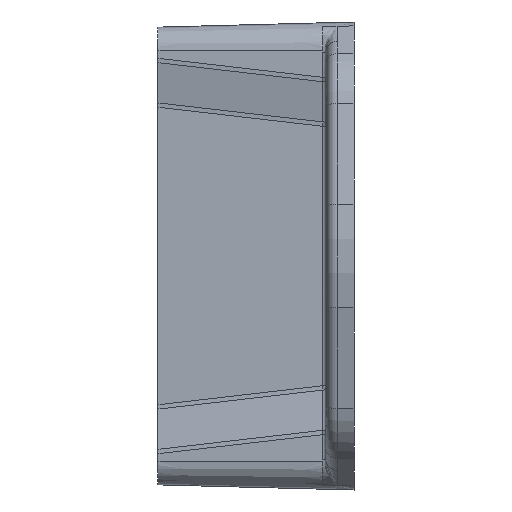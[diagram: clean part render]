
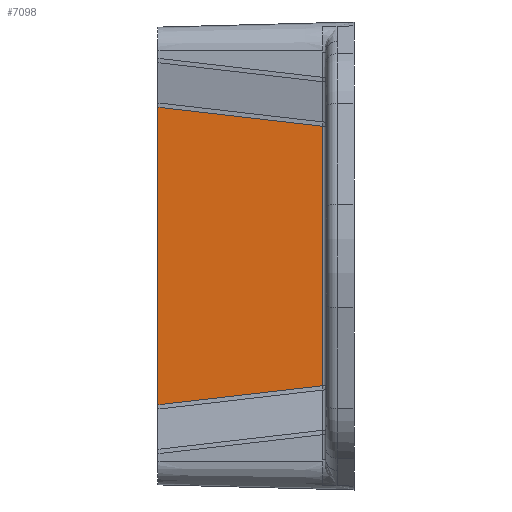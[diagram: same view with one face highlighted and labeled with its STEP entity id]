
A CAD part, left-side view. The second image highlights one B-rep face of the part: STEP entity #7098.
In plain terms, the highlighted planar face has unit normal (-1, 0.026, 0).
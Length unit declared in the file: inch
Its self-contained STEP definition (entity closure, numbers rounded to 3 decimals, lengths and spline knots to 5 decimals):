
#148 = LINE ( 'NONE', #3193, #3602 ) ;
#465 = CARTESIAN_POINT ( 'NONE',  ( -1.04724, -0.75388, -0.5808 ) ) ;
#562 = VERTEX_POINT ( 'NONE', #8196 ) ;
#790 = LINE ( 'NONE', #6444, #5668 ) ;
#1608 = DIRECTION ( 'NONE',  ( -0.026, -1., 0. ) ) ;
#1882 = VERTEX_POINT ( 'NONE', #3057 ) ;
#1965 = DIRECTION ( 'NONE',  ( 0.026, 0.993, 0.114 ) ) ;
#2001 = CARTESIAN_POINT ( 'NONE',  ( -1.0275, 0., -0.66767 ) ) ;
#2366 = VERTEX_POINT ( 'NONE', #2001 ) ;
#2719 = EDGE_CURVE ( 'NONE', #1882, #562, #790, .T. ) ;
#2728 = VECTOR ( 'NONE', #1965, 39.37008 ) ;
#3057 = CARTESIAN_POINT ( 'NONE',  ( -1.04687, -0.73978, -0.58243 ) ) ;
#3105 = ORIENTED_EDGE ( 'NONE', *, *, #7721, .F. ) ;
#3193 = CARTESIAN_POINT ( 'NONE',  ( -1.0275, 0., -0.6775 ) ) ;
#3239 = DIRECTION ( 'NONE',  ( 0., 0., 1. ) ) ;
#3586 = ORIENTED_EDGE ( 'NONE', *, *, #4111, .T. ) ;
#3602 = VECTOR ( 'NONE', #3239, 39.37008 ) ;
#3697 = ORIENTED_EDGE ( 'NONE', *, *, #2719, .T. ) ;
#4111 = EDGE_CURVE ( 'NONE', #2366, #1882, #4915, .T. ) ;
#4380 = DIRECTION ( 'NONE',  ( 0., 0., 1. ) ) ;
#4915 = LINE ( 'NONE', #465, #5963 ) ;
#4965 = AXIS2_PLACEMENT_3D ( 'NONE', #7711, #8641, #1608 ) ;
#5199 = FACE_OUTER_BOUND ( 'NONE', #7571, .T. ) ;
#5668 = VECTOR ( 'NONE', #4380, 39.37008 ) ;
#5963 = VECTOR ( 'NONE', #6286, 39.37008 ) ;
#6286 = DIRECTION ( 'NONE',  ( -0.026, -0.993, 0.114 ) ) ;
#6444 = CARTESIAN_POINT ( 'NONE',  ( -1.04687, -0.73978, -0.6775 ) ) ;
#6641 = ORIENTED_EDGE ( 'NONE', *, *, #8399, .T. ) ;
#6658 = LINE ( 'NONE', #7069, #2728 ) ;
#7069 = CARTESIAN_POINT ( 'NONE',  ( -1.02747, 0.00112, 0.6678 ) ) ;
#7098 = ADVANCED_FACE ( 'NONE', ( #5199 ), #8500, .T. ) ;
#7571 = EDGE_LOOP ( 'NONE', ( #3586, #3697, #6641, #3105 ) ) ;
#7711 = CARTESIAN_POINT ( 'NONE',  ( -1.0275, 0., -0.6775 ) ) ;
#7721 = EDGE_CURVE ( 'NONE', #2366, #8542, #148, .T. ) ;
#7824 = CARTESIAN_POINT ( 'NONE',  ( -1.0275, 0., 0.66767 ) ) ;
#8196 = CARTESIAN_POINT ( 'NONE',  ( -1.04687, -0.73978, 0.58243 ) ) ;
#8399 = EDGE_CURVE ( 'NONE', #562, #8542, #6658, .T. ) ;
#8500 = PLANE ( 'NONE',  #4965 ) ;
#8542 = VERTEX_POINT ( 'NONE', #7824 ) ;
#8641 = DIRECTION ( 'NONE',  ( -1., 0.026, 0. ) ) ;
